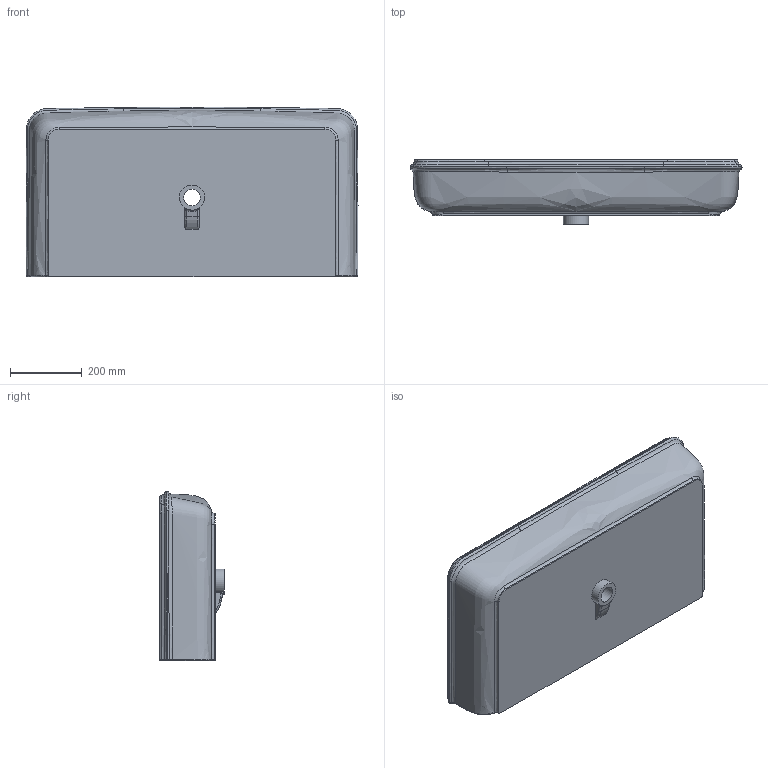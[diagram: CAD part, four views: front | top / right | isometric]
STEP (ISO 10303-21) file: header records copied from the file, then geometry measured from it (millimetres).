
FILE_DESCRIPTION (( 'STEP AP203' ), '1' );
FILE_NAME ('CHLP09046T0M.STEP', '2022-11-17T15:52:45', ( '' ), ( '' ), 'SwSTEP 2.0', 'SolidWorks 2021', '' );
FILE_SCHEMA (( 'CONFIG_CONTROL_DESIGN' ));
Length unit declared in the file: millimetre
Products named in the file (1): CHLP09046T0M
Bounding box: 923.94 x 180 x 471 mm (x, y, z)
Volume: 37333599.2 mm3; surface area: 1383588.2 mm2
Topology: 1 solids, 1 shells, 100 faces, 259 edges, 163 vertices
Faces by surface type: bspline 69, cylinder 15, plane 11, torus 4, cone 1
Full cylindrical faces by diameter (mm): 25 x1, 46 x1, 70 x1
Entity records: 13589 total; most frequent: CARTESIAN_POINT 11614, ORIENTED_EDGE 494, DIRECTION 248, EDGE_CURVE 247, VERTEX_POINT 159, B_SPLINE_CURVE_WITH_KNOTS 136, EDGE_LOOP 112, AXIS2_PLACEMENT_3D 109
